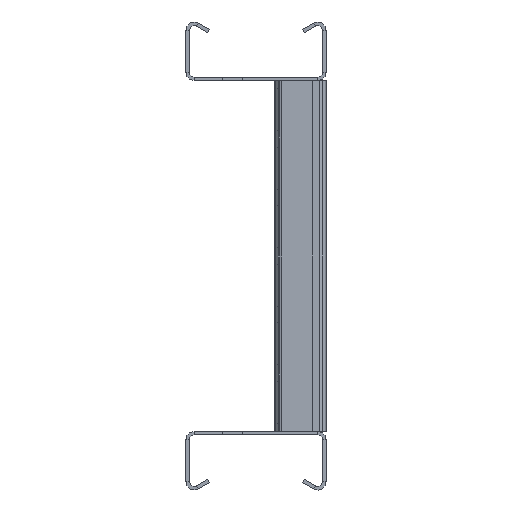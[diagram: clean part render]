
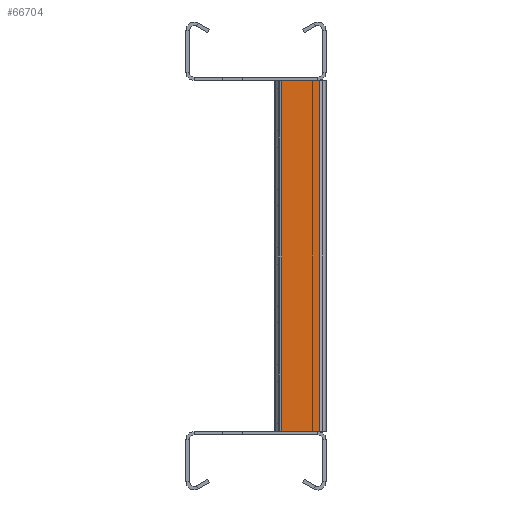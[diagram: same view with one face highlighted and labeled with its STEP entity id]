
A CAD part, left-side view. The second image highlights one B-rep face of the part: STEP entity #66704.
In plain terms, the highlighted planar face has unit normal (-1, 0, 0).
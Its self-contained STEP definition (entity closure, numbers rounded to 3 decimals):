
#3875=LINE('',#100644,#11003);
#3876=LINE('',#100646,#11004);
#3877=LINE('',#100648,#11005);
#3878=LINE('',#100649,#11006);
#11003=VECTOR('',#80814,10.);
#11004=VECTOR('',#80815,10.);
#11005=VECTOR('',#80816,10.);
#11006=VECTOR('',#80817,10.);
#16063=PLANE('',#70518);
#19456=FACE_OUTER_BOUND('',#23636,.T.);
#23636=EDGE_LOOP('',(#51325,#51326,#51327,#51328));
#30519=VERTEX_POINT('',#100639);
#30520=VERTEX_POINT('',#100643);
#30521=VERTEX_POINT('',#100645);
#30522=VERTEX_POINT('',#100647);
#37950=EDGE_CURVE('',#30520,#30519,#3875,.T.);
#37951=EDGE_CURVE('',#30521,#30520,#3876,.T.);
#37952=EDGE_CURVE('',#30521,#30522,#3877,.T.);
#37953=EDGE_CURVE('',#30519,#30522,#3878,.T.);
#51325=ORIENTED_EDGE('',*,*,#37950,.F.);
#51326=ORIENTED_EDGE('',*,*,#37951,.F.);
#51327=ORIENTED_EDGE('',*,*,#37952,.T.);
#51328=ORIENTED_EDGE('',*,*,#37953,.F.);
#66704=ADVANCED_FACE('',(#19456),#16063,.T.);
#70518=AXIS2_PLACEMENT_3D('',#100642,#80812,#80813);
#80812=DIRECTION('center_axis',(-1.,0.,0.));
#80813=DIRECTION('ref_axis',(0.,0.,
-1.));
#80814=DIRECTION('',(0.,0.,1.));
#80815=DIRECTION('',(0.,1.,0.));
#80816=DIRECTION('',(0.,0.,1.));
#80817=DIRECTION('',(0.,-1.,0.));
#100639=CARTESIAN_POINT('',(-2894.75,-11.,75.));
#100642=CARTESIAN_POINT('Origin',(-2894.75,9.143,0.));
#100643=CARTESIAN_POINT('',(-2894.75,-11.,-75.));
#100644=CARTESIAN_POINT('',(-2894.75,-11.,0.));
#100645=CARTESIAN_POINT('',(-2894.75,-27.,-75.));
#100646=CARTESIAN_POINT('',(-2894.75,56.822,-75.));
#100647=CARTESIAN_POINT('',(-2894.75,-27.,75.));
#100648=CARTESIAN_POINT('',(-2894.75,-27.,0.));
#100649=CARTESIAN_POINT('',(-2894.75,-41.536,75.));
